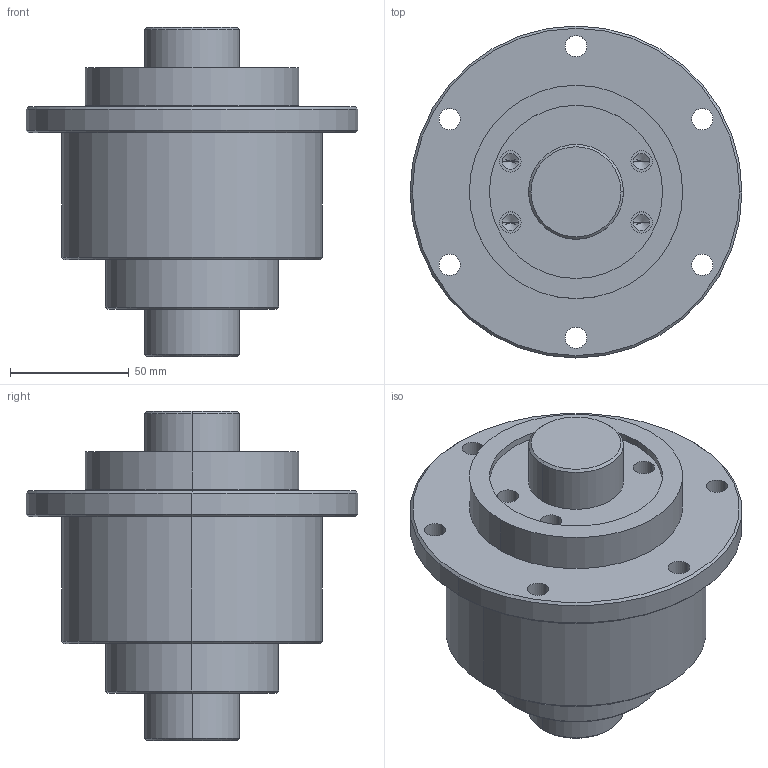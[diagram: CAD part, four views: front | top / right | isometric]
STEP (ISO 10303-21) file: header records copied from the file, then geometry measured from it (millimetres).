
FILE_DESCRIPTION (( 'STEP AP203' ), '1' );
FILE_NAME ('RFBY4040.STEP', '2014-11-13T09:02:40', ( '' ), ( '' ), 'SwSTEP 2.0', 'SolidWorks 2014', '' );
FILE_SCHEMA (( 'CONFIG_CONTROL_DESIGN' ));
Length unit declared in the file: millimetre
Products named in the file (1): RFBY4040
Bounding box: 140 x 140 x 139 mm (x, y, z)
Volume: 899412.8 mm3; surface area: 106454.9 mm2
Topology: 3 solids, 3 shells, 80 faces, 178 edges, 108 vertices
Faces by surface type: cylinder 46, cone 20, plane 14
Entity records: 2295 total; most frequent: DIRECTION 436, CARTESIAN_POINT 359, ORIENTED_EDGE 340, AXIS2_PLACEMENT_3D 185, EDGE_CURVE 170, EDGE_LOOP 108, VERTEX_POINT 108, CIRCLE 104
